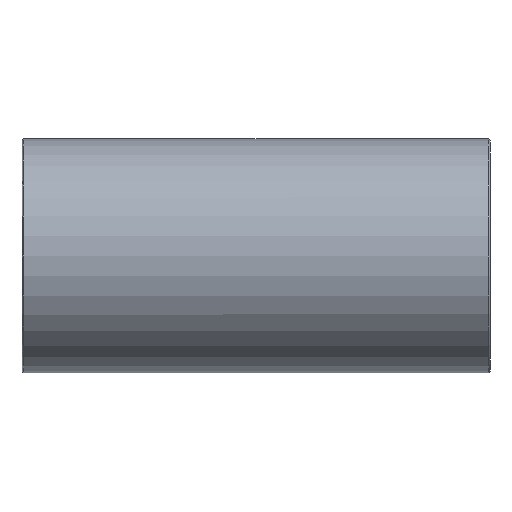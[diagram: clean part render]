
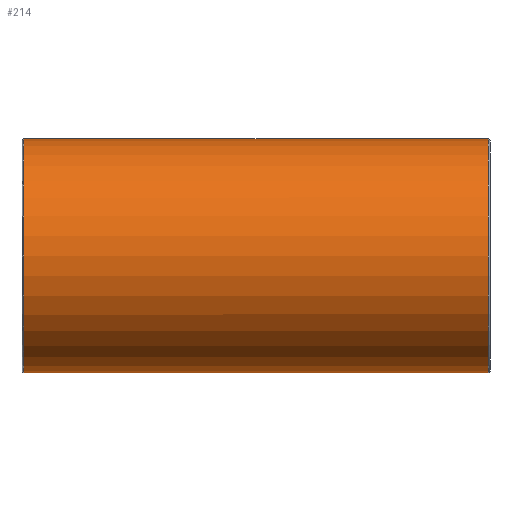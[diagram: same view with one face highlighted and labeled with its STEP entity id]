
A CAD part, front view. The second image highlights one B-rep face of the part: STEP entity #214.
In plain terms, the highlighted cylindrical face has radius 16.5 mm (diameter 33 mm), a full revolution.
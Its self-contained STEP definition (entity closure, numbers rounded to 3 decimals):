
#27=B_SPLINE_CURVE_WITH_KNOTS('',3,(#355,#356,#357,#358,#359,#360,#361,
#362,#363,#364,#365,#366,#367,#368,#369,#370,#371,#372,#373,#374,#375,#376,
#377,#378,#379,#380,#381,#382,#383,#384,#385,#386,#387,#388,#389,#390,#391,
#392,#393,#394,#395,#396,#397,#398,#399,#400,#401,#402,#403,#404),
 .UNSPECIFIED.,.T.,.F.,(4,2,2,2,2,2,2,2,2,2,2,2,2,2,2,2,2,2,2,2,2,2,2,2,
4),(0.,0.279,0.558,1.116,1.654,
1.923,2.192,2.461,2.73,3.268,
3.827,4.106,4.385,4.664,4.943,
5.501,6.039,6.308,6.577,6.846,
7.115,7.653,8.211,8.49,8.769),
 .UNSPECIFIED.);
#29=FACE_BOUND('',#70,.T.);
#30=FACE_BOUND('',#71,.T.);
#50=FACE_OUTER_BOUND('',#69,.T.);
#69=EDGE_LOOP('',(#167));
#70=EDGE_LOOP('',(#168));
#71=EDGE_LOOP('',(#169));
#109=CIRCLE('',#236,16.5);
#110=CIRCLE('',#237,16.5);
#127=VERTEX_POINT('',#350);
#128=VERTEX_POINT('',#352);
#129=VERTEX_POINT('',#354);
#147=EDGE_CURVE('',#127,#127,#109,.T.);
#148=EDGE_CURVE('',#128,#128,#110,.T.);
#149=EDGE_CURVE('',#129,#129,#27,.T.);
#167=ORIENTED_EDGE('',*,*,#147,.F.);
#168=ORIENTED_EDGE('',*,*,#148,.F.);
#169=ORIENTED_EDGE('',*,*,#149,.F.);
#207=CYLINDRICAL_SURFACE('',#235,16.5);
#214=ADVANCED_FACE('',(#50,#29,#30),#207,.T.);
#235=AXIS2_PLACEMENT_3D('',#349,#274,#275);
#236=AXIS2_PLACEMENT_3D('',#351,#276,#277);
#237=AXIS2_PLACEMENT_3D('',#353,#278,#279);
#274=DIRECTION('center_axis',(1.,0.,0.));
#275=DIRECTION('ref_axis',(0.,1.,0.));
#276=DIRECTION('center_axis',(-1.,0.,0.));
#277=DIRECTION('ref_axis',(0.,-1.,0.));
#278=DIRECTION('center_axis',(1.,0.,0.));
#279=DIRECTION('ref_axis',(0.,-1.,0.));
#349=CARTESIAN_POINT('Origin',(0.,0.,
0.));
#350=CARTESIAN_POINT('',(-32.75,16.5,0.));
#351=CARTESIAN_POINT('Origin',(-32.75,0.,0.));
#352=CARTESIAN_POINT('',(32.75,16.5,0.));
#353=CARTESIAN_POINT('Origin',(32.75,0.,0.));
#354=CARTESIAN_POINT('',(0.,9.487,13.5));
#355=CARTESIAN_POINT('Ctrl Pts',(0.,9.487,
13.5));
#356=CARTESIAN_POINT('Ctrl Pts',(0.93,9.487,13.5));
#357=CARTESIAN_POINT('Ctrl Pts',(1.847,9.627,13.404));
#358=CARTESIAN_POINT('Ctrl Pts',(3.619,10.118,13.037));
#359=CARTESIAN_POINT('Ctrl Pts',(4.474,10.465,12.768));
#360=CARTESIAN_POINT('Ctrl Pts',(6.912,11.652,11.73));
#361=CARTESIAN_POINT('Ctrl Pts',(8.37,12.624,10.722));
#362=CARTESIAN_POINT('Ctrl Pts',(10.68,14.262,8.412));
#363=CARTESIAN_POINT('Ctrl Pts',(11.71,15.064,6.954));
#364=CARTESIAN_POINT('Ctrl Pts',(12.769,15.906,4.474));
#365=CARTESIAN_POINT('Ctrl Pts',(13.044,16.128,3.598));
#366=CARTESIAN_POINT('Ctrl Pts',(13.409,16.425,1.81));
#367=CARTESIAN_POINT('Ctrl Pts',(13.5,16.5,0.897));
#368=CARTESIAN_POINT('Ctrl Pts',(13.5,16.5,-0.897));
#369=CARTESIAN_POINT('Ctrl Pts',(13.409,16.425,-1.81));
#370=CARTESIAN_POINT('Ctrl Pts',(13.044,16.128,-3.598));
#371=CARTESIAN_POINT('Ctrl Pts',(12.769,15.906,-4.474));
#372=CARTESIAN_POINT('Ctrl Pts',(11.71,15.064,-6.954));
#373=CARTESIAN_POINT('Ctrl Pts',(10.68,14.262,-8.412));
#374=CARTESIAN_POINT('Ctrl Pts',(8.37,12.624,-10.722));
#375=CARTESIAN_POINT('Ctrl Pts',(6.912,11.652,-11.73));
#376=CARTESIAN_POINT('Ctrl Pts',(4.474,10.465,-12.768));
#377=CARTESIAN_POINT('Ctrl Pts',(3.619,10.118,-13.037));
#378=CARTESIAN_POINT('Ctrl Pts',(1.847,9.627,-13.404));
#379=CARTESIAN_POINT('Ctrl Pts',(0.93,9.487,-13.5));
#380=CARTESIAN_POINT('Ctrl Pts',(-0.93,9.487,-13.5));
#381=CARTESIAN_POINT('Ctrl Pts',(-1.847,9.627,-13.404));
#382=CARTESIAN_POINT('Ctrl Pts',(-3.619,10.118,-13.037));
#383=CARTESIAN_POINT('Ctrl Pts',(-4.474,10.465,-12.768));
#384=CARTESIAN_POINT('Ctrl Pts',(-6.912,11.652,-11.73));
#385=CARTESIAN_POINT('Ctrl Pts',(-8.37,12.624,-10.722));
#386=CARTESIAN_POINT('Ctrl Pts',(-10.68,14.262,-8.412));
#387=CARTESIAN_POINT('Ctrl Pts',(-11.71,15.064,-6.954));
#388=CARTESIAN_POINT('Ctrl Pts',(-12.769,15.906,-4.474));
#389=CARTESIAN_POINT('Ctrl Pts',(-13.044,16.128,-3.598));
#390=CARTESIAN_POINT('Ctrl Pts',(-13.409,16.425,-1.81));
#391=CARTESIAN_POINT('Ctrl Pts',(-13.5,16.5,-0.897));
#392=CARTESIAN_POINT('Ctrl Pts',(-13.5,16.5,0.897));
#393=CARTESIAN_POINT('Ctrl Pts',(-13.409,16.425,1.81));
#394=CARTESIAN_POINT('Ctrl Pts',(-13.044,16.128,3.598));
#395=CARTESIAN_POINT('Ctrl Pts',(-12.769,15.906,4.474));
#396=CARTESIAN_POINT('Ctrl Pts',(-11.71,15.064,6.954));
#397=CARTESIAN_POINT('Ctrl Pts',(-10.68,14.262,8.412));
#398=CARTESIAN_POINT('Ctrl Pts',(-8.37,12.624,10.722));
#399=CARTESIAN_POINT('Ctrl Pts',(-6.912,11.652,11.73));
#400=CARTESIAN_POINT('Ctrl Pts',(-4.474,10.465,12.768));
#401=CARTESIAN_POINT('Ctrl Pts',(-3.619,10.118,13.037));
#402=CARTESIAN_POINT('Ctrl Pts',(-1.847,9.627,13.404));
#403=CARTESIAN_POINT('Ctrl Pts',(-0.93,9.487,13.5));
#404=CARTESIAN_POINT('Ctrl Pts',(0.,9.487,
13.5));
